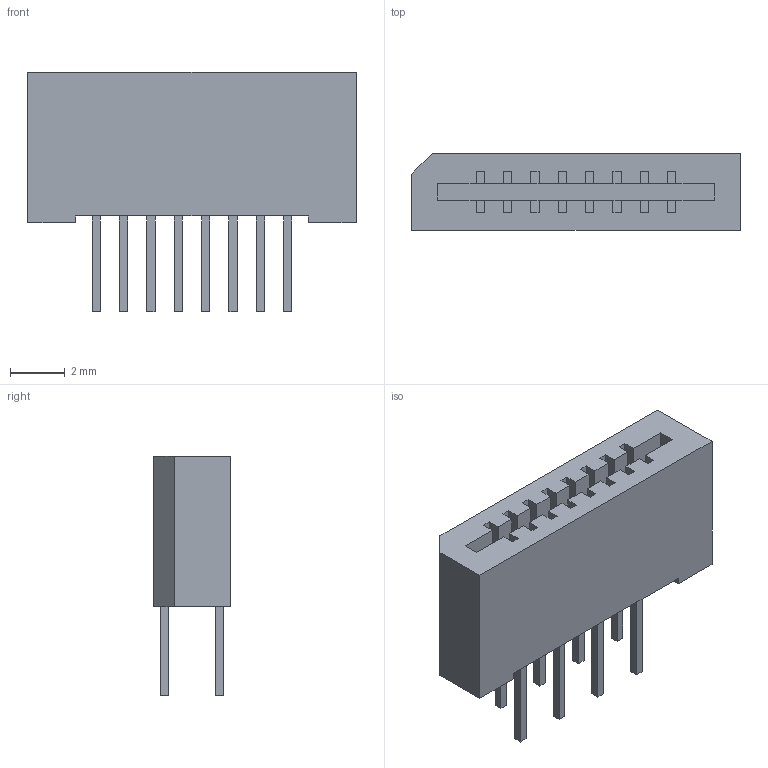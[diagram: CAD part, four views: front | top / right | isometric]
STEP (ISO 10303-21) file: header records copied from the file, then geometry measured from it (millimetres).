
FILE_DESCRIPTION (( 'STEP AP214' ), '1' );
FILE_NAME ('PCB-C-08-T-20.STEP', '2024-09-17T02:41:02', ( '' ), ( '' ), 'SwSTEP 2.0', 'SolidWorks 2023', '' );
FILE_SCHEMA (( 'AUTOMOTIVE_DESIGN' ));
Length unit declared in the file: millimetre
Products named in the file (1): PCB-C-08-T-20
Bounding box: 12 x 2.8 x 8.75 mm (x, y, z)
Volume: 145 mm3; surface area: 404.5 mm2
Topology: 1 solids, 1 shells, 120 faces, 327 edges, 218 vertices
Faces by surface type: plane 120
Entity records: 4614 total; most frequent: CARTESIAN_POINT 666, ORIENTED_EDGE 654, DIRECTION 569, EDGE_CURVE 327, VECTOR 327, LINE 327, VERTEX_POINT 218, EDGE_LOOP 129
